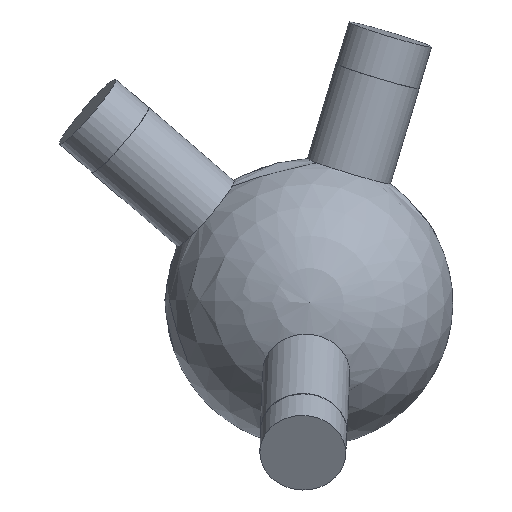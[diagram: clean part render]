
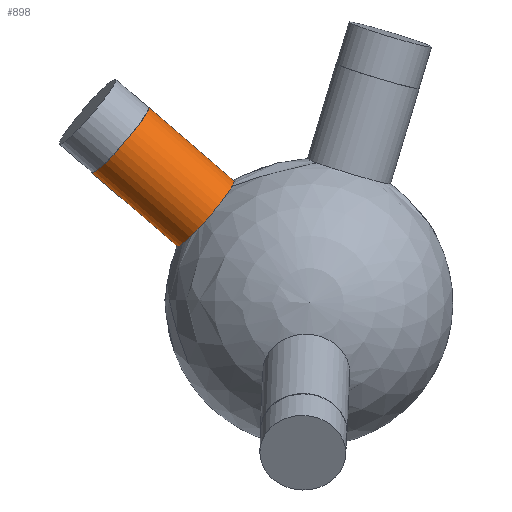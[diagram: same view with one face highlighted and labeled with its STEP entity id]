
A CAD part, top view. The second image highlights one B-rep face of the part: STEP entity #898.
In plain terms, the highlighted cylindrical face has radius 6 mm (diameter 12 mm), a full revolution.
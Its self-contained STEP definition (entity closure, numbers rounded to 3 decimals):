
#33 = SPHERICAL_SURFACE('',#34,20.);
#34 = AXIS2_PLACEMENT_3D('',#35,#36,#37);
#35 = CARTESIAN_POINT('',(0.,0.,0.));
#36 = DIRECTION('',(0.,0.,1.));
#37 = DIRECTION('',(1.,0.,-0.));
#520 = EDGE_CURVE('',#521,#521,#523,.T.);
#521 = VERTEX_POINT('',#522);
#522 = CARTESIAN_POINT('',(-18.272,7.841,2.155
    ));
#523 = SURFACE_CURVE('',#524,(#529,#591),.PCURVE_S1.);
#524 = CIRCLE('',#525,6.);
#525 = AXIS2_PLACEMENT_3D('',#526,#527,#528);
#526 = CARTESIAN_POINT('',(-14.353,12.383,2.155
    ));
#527 = DIRECTION('',(-0.752,0.649,0.113));
#528 = DIRECTION('',(-0.653,-0.757,0.)
  );
#529 = PCURVE('',#33,#530);
#530 = DEFINITIONAL_REPRESENTATION('',(#531),#590);
#531 = B_SPLINE_CURVE_WITH_KNOTS('',8,(#532,#533,#534,#535,#536,#537,
    #538,#539,#540,#541,#542,#543,#544,#545,#546,#547,#548,#549,#550,
    #551,#552,#553,#554,#555,#556,#557,#558,#559,#560,#561,#562,#563,
    #564,#565,#566,#567,#568,#569,#570,#571,#572,#573,#574,#575,#576,
    #577,#578,#579,#580,#581,#582,#583,#584,#585,#586,#587,#588,#589),
  .UNSPECIFIED.,.F.,.F.,(9,7,7,7,7,7,7,7,9),(0.,0.785,
    1.473,2.074,3.126,3.915,
    4.507,5.395,6.283),.UNSPECIFIED.);
#532 = CARTESIAN_POINT('',(2.736,0.108));
#533 = CARTESIAN_POINT('',(2.737,0.137));
#534 = CARTESIAN_POINT('',(2.735,0.167));
#535 = CARTESIAN_POINT('',(2.73,0.196));
#536 = CARTESIAN_POINT('',(2.721,0.225));
#537 = CARTESIAN_POINT('',(2.709,0.252));
#538 = CARTESIAN_POINT('',(2.694,0.278));
#539 = CARTESIAN_POINT('',(2.676,0.302));
#540 = CARTESIAN_POINT('',(2.637,0.343));
#541 = CARTESIAN_POINT('',(2.617,0.361));
#542 = CARTESIAN_POINT('',(2.594,0.376));
#543 = CARTESIAN_POINT('',(2.57,0.389));
#544 = CARTESIAN_POINT('',(2.544,0.4));
#545 = CARTESIAN_POINT('',(2.518,0.408));
#546 = CARTESIAN_POINT('',(2.49,0.414));
#547 = CARTESIAN_POINT('',(2.437,0.419));
#548 = CARTESIAN_POINT('',(2.413,0.419));
#549 = CARTESIAN_POINT('',(2.388,0.417));
#550 = CARTESIAN_POINT('',(2.363,0.413));
#551 = CARTESIAN_POINT('',(2.339,0.407));
#552 = CARTESIAN_POINT('',(2.316,0.399));
#553 = CARTESIAN_POINT('',(2.294,0.389));
#554 = CARTESIAN_POINT('',(2.237,0.357));
#555 = CARTESIAN_POINT('',(2.205,0.332));
#556 = CARTESIAN_POINT('',(2.177,0.301));
#557 = CARTESIAN_POINT('',(2.154,0.267));
#558 = CARTESIAN_POINT('',(2.138,0.23));
#559 = CARTESIAN_POINT('',(2.127,0.192));
#560 = CARTESIAN_POINT('',(2.122,0.152));
#561 = CARTESIAN_POINT('',(2.124,0.083));
#562 = CARTESIAN_POINT('',(2.127,0.053));
#563 = CARTESIAN_POINT('',(2.134,0.024));
#564 = CARTESIAN_POINT('',(2.144,-0.004));
#565 = CARTESIAN_POINT('',(2.157,-0.031));
#566 = CARTESIAN_POINT('',(2.173,-0.056));
#567 = CARTESIAN_POINT('',(2.192,-0.08));
#568 = CARTESIAN_POINT('',(2.228,-0.117));
#569 = CARTESIAN_POINT('',(2.245,-0.131));
#570 = CARTESIAN_POINT('',(2.263,-0.144));
#571 = CARTESIAN_POINT('',(2.282,-0.156));
#572 = CARTESIAN_POINT('',(2.303,-0.166));
#573 = CARTESIAN_POINT('',(2.324,-0.174));
#574 = CARTESIAN_POINT('',(2.345,-0.181));
#575 = CARTESIAN_POINT('',(2.401,-0.192));
#576 = CARTESIAN_POINT('',(2.435,-0.195));
#577 = CARTESIAN_POINT('',(2.469,-0.193));
#578 = CARTESIAN_POINT('',(2.503,-0.187));
#579 = CARTESIAN_POINT('',(2.536,-0.177));
#580 = CARTESIAN_POINT('',(2.567,-0.163));
#581 = CARTESIAN_POINT('',(2.596,-0.145));
#582 = CARTESIAN_POINT('',(2.648,-0.103));
#583 = CARTESIAN_POINT('',(2.671,-0.078));
#584 = CARTESIAN_POINT('',(2.691,-0.051));
#585 = CARTESIAN_POINT('',(2.708,-0.022));
#586 = CARTESIAN_POINT('',(2.721,0.009));
#587 = CARTESIAN_POINT('',(2.73,0.042));
#588 = CARTESIAN_POINT('',(2.735,0.075));
#589 = CARTESIAN_POINT('',(2.736,0.108));
#590 = ( GEOMETRIC_REPRESENTATION_CONTEXT(2) 
PARAMETRIC_REPRESENTATION_CONTEXT() REPRESENTATION_CONTEXT('2D SPACE',''
  ) );
#591 = PCURVE('',#592,#597);
#592 = CYLINDRICAL_SURFACE('',#593,6.);
#593 = AXIS2_PLACEMENT_3D('',#594,#595,#596);
#594 = CARTESIAN_POINT('',(0.,0.,0.));
#595 = DIRECTION('',(-0.752,0.649,0.113));
#596 = DIRECTION('',(-0.653,-0.757,0.)
  );
#597 = DEFINITIONAL_REPRESENTATION('',(#598),#602);
#598 = LINE('',#599,#600);
#599 = CARTESIAN_POINT('',(0.,19.079));
#600 = VECTOR('',#601,1.);
#601 = DIRECTION('',(1.,0.));
#602 = ( GEOMETRIC_REPRESENTATION_CONTEXT(2) 
PARAMETRIC_REPRESENTATION_CONTEXT() REPRESENTATION_CONTEXT('2D SPACE',''
  ) );
#898 = ADVANCED_FACE('',(#899),#592,.T.);
#899 = FACE_BOUND('',#900,.T.);
#900 = EDGE_LOOP('',(#901,#924,#951,#952));
#901 = ORIENTED_EDGE('',*,*,#902,.T.);
#902 = EDGE_CURVE('',#521,#903,#905,.T.);
#903 = VERTEX_POINT('',#904);
#904 = CARTESIAN_POINT('',(-30.063,18.013,
    3.926));
#905 = SEAM_CURVE('',#906,(#910,#917),.PCURVE_S1.);
#906 = LINE('',#907,#908);
#907 = CARTESIAN_POINT('',(-3.92,-4.543,
    0.));
#908 = VECTOR('',#909,1.);
#909 = DIRECTION('',(-0.752,0.649,0.113));
#910 = PCURVE('',#592,#911);
#911 = DEFINITIONAL_REPRESENTATION('',(#912),#916);
#912 = LINE('',#913,#914);
#913 = CARTESIAN_POINT('',(6.283,-0.));
#914 = VECTOR('',#915,1.);
#915 = DIRECTION('',(0.,1.));
#916 = ( GEOMETRIC_REPRESENTATION_CONTEXT(2) 
PARAMETRIC_REPRESENTATION_CONTEXT() REPRESENTATION_CONTEXT('2D SPACE',''
  ) );
#917 = PCURVE('',#592,#918);
#918 = DEFINITIONAL_REPRESENTATION('',(#919),#923);
#919 = LINE('',#920,#921);
#920 = CARTESIAN_POINT('',(0.,-0.));
#921 = VECTOR('',#922,1.);
#922 = DIRECTION('',(0.,1.));
#923 = ( GEOMETRIC_REPRESENTATION_CONTEXT(2) 
PARAMETRIC_REPRESENTATION_CONTEXT() REPRESENTATION_CONTEXT('2D SPACE',''
  ) );
#924 = ORIENTED_EDGE('',*,*,#925,.F.);
#925 = EDGE_CURVE('',#903,#903,#926,.T.);
#926 = SURFACE_CURVE('',#927,(#932,#939),.PCURVE_S1.);
#927 = CIRCLE('',#928,6.);
#928 = AXIS2_PLACEMENT_3D('',#929,#930,#931);
#929 = CARTESIAN_POINT('',(-26.143,22.556,
    3.926));
#930 = DIRECTION('',(-0.752,0.649,0.113));
#931 = DIRECTION('',(-0.653,-0.757,0.)
  );
#932 = PCURVE('',#592,#933);
#933 = DEFINITIONAL_REPRESENTATION('',(#934),#938);
#934 = LINE('',#935,#936);
#935 = CARTESIAN_POINT('',(0.,34.751));
#936 = VECTOR('',#937,1.);
#937 = DIRECTION('',(1.,0.));
#938 = ( GEOMETRIC_REPRESENTATION_CONTEXT(2) 
PARAMETRIC_REPRESENTATION_CONTEXT() REPRESENTATION_CONTEXT('2D SPACE',''
  ) );
#939 = PCURVE('',#940,#945);
#940 = PLANE('',#941);
#941 = AXIS2_PLACEMENT_3D('',#942,#943,#944);
#942 = CARTESIAN_POINT('',(-26.143,22.556,
    3.926));
#943 = DIRECTION('',(-0.752,0.649,0.113));
#944 = DIRECTION('',(-0.653,-0.757,0.)
  );
#945 = DEFINITIONAL_REPRESENTATION('',(#946),#950);
#946 = CIRCLE('',#947,6.);
#947 = AXIS2_PLACEMENT_2D('',#948,#949);
#948 = CARTESIAN_POINT('',(0.,0.));
#949 = DIRECTION('',(1.,0.));
#950 = ( GEOMETRIC_REPRESENTATION_CONTEXT(2) 
PARAMETRIC_REPRESENTATION_CONTEXT() REPRESENTATION_CONTEXT('2D SPACE',''
  ) );
#951 = ORIENTED_EDGE('',*,*,#902,.F.);
#952 = ORIENTED_EDGE('',*,*,#520,.T.);
